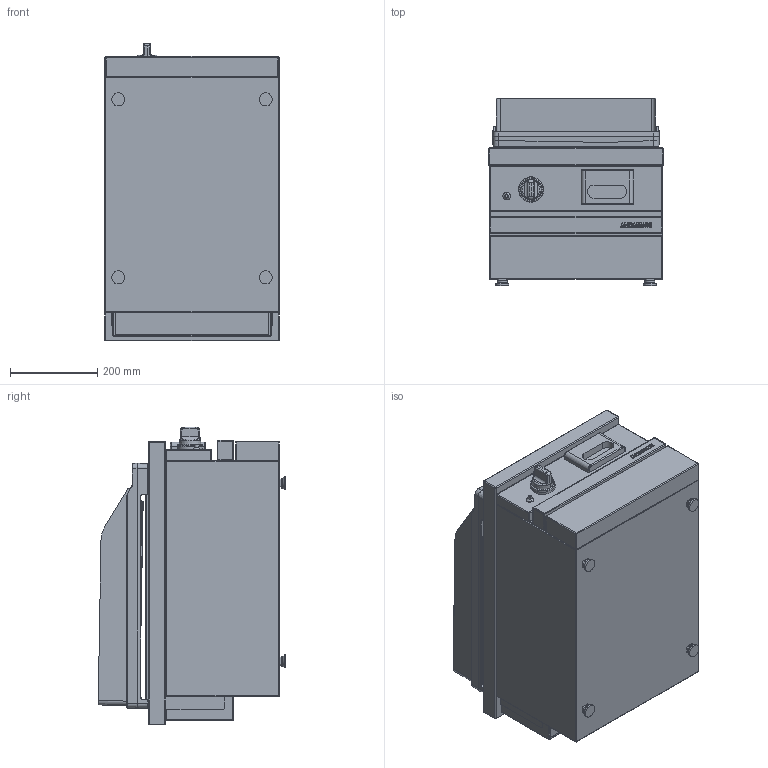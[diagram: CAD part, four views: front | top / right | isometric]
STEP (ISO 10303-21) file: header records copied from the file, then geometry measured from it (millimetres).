
FILE_DESCRIPTION((''),'2;1');
FILE_NAME('CSG410GL_EXPORT_STEP_ASM','2017-11-22T',('r.avril'),(''),'PRO/ENGINEER BY PARAMETRIC TECHNOLOGY CORPORATION, 2014200','PRO/ENGINEER BY PARAMETRIC TECHNOLOGY CORPORATION, 2014200','');
FILE_SCHEMA(('AP203_CONFIGURATION_CONTROLLED_3D_DESIGN_OF_MECHANICAL_PARTS_AND_ASSEMBLIES_MIM_LF { 1 0 10303 403 2 1 2 }'));
Length unit declared in the file: millimetre
Products named in the file (10): SNACKS_AMB_400_EXPORT_STEP; TABLE_410_GRILLADE; TABLE_410_GRILLADE_ASM; MANETTE_AMB_EXPORT_STEP; ALLUMEUR_EXPORT_STEP; TIROIR_GRILLADE_EXPORT_STEP; 65062007; 50288400; 90000921_ASM; CSG410GL_EXPORT_STEP_ASM
Assembly tree (9 placements, depth 3):
  CSG410GL_EXPORT_STEP_ASM
    SNACKS_AMB_400_EXPORT_STEP
    TABLE_410_GRILLADE_ASM
      TABLE_410_GRILLADE
    MANETTE_AMB_EXPORT_STEP
    ALLUMEUR_EXPORT_STEP
    TIROIR_GRILLADE_EXPORT_STEP
    90000921_ASM
      65062007
      50288400
Bounding box: 400 x 430 x 682.5 mm (x, y, z)
Volume: 35628849.8 mm3; surface area: 3271395 mm2
Topology: 11 solids, 43 shells, 962 faces, 2810 edges, 2159 vertices
Faces by surface type: cylinder 330, plane 288, cone 108, bspline 98, torus 80, sphere 58
Entity records: 45946 total; most frequent: CARTESIAN_POINT 13413, DIRECTION 5072, ORIENTED_EDGE 4596, EDGE_CURVE 2548, AXIS2_PLACEMENT_3D 1878, PRESENTATION_STYLE_ASSIGNMENT 1756, STYLED_ITEM 1756, VERTEX_POINT 1675
